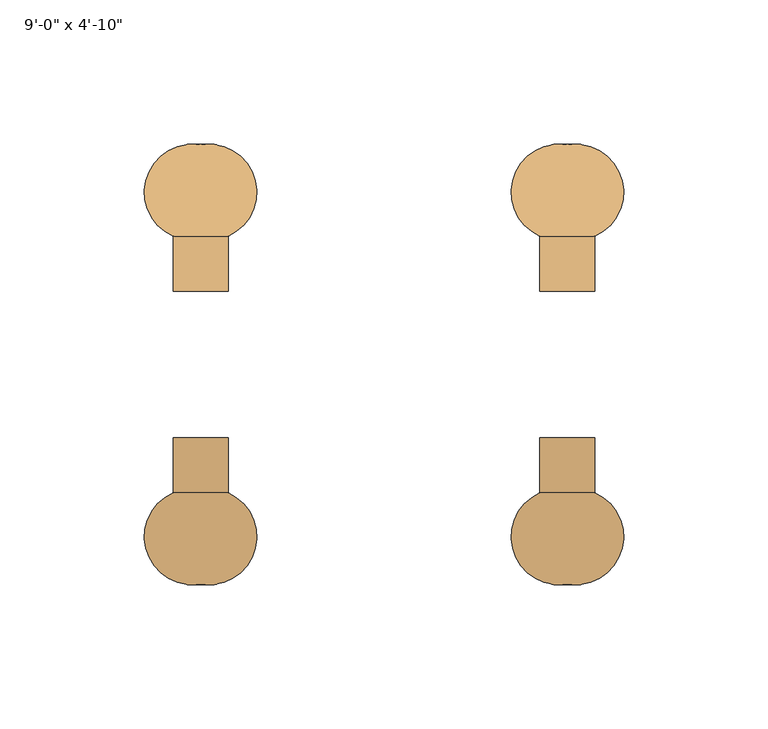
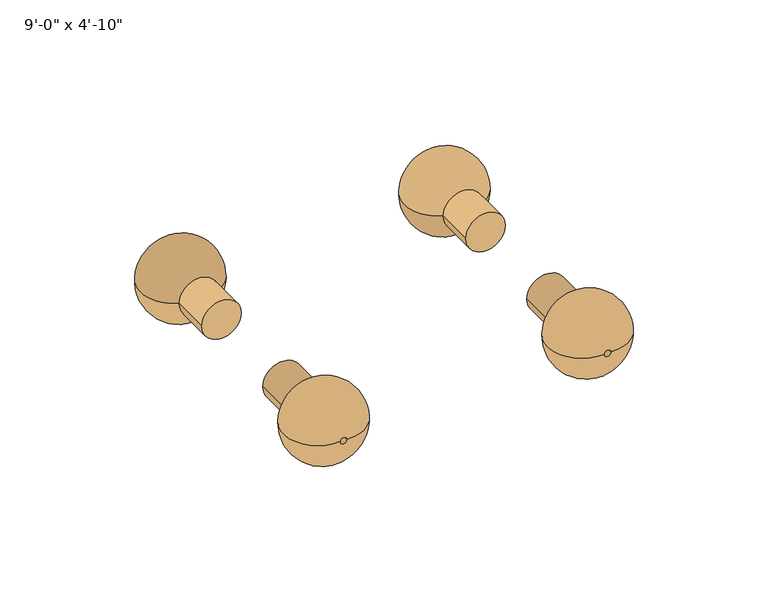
"""IFC4 building model written with IfcOpenShell, lengths in millimetres: door geometry."""

from ifc_helpers import new_model, si_unit, point, frame, frame_2d, origin, place, context, project, spatial, polyline, circle_curve, ellipse_curve, trimmed, segment, composite_curve, outline, extrude, source, transform, mapped, element, save
from ifc_brep_helpers import plane_surface, revolved_surface, advanced_brep


def door_96b5f492(model_context):
    return source(origin(), model_context, "Body", "SolidModel", [
        advanced_brep(
        [(-682.625, 88.9, 1016.0), (-682.625, 69.85, 1016.0), (-663.575, 69.85, 1016.0), (-663.575, 88.9, 1016.0), (-674.6875, 101.6, 1016.0), (-674.6875, 88.9, 1016.0), (-671.5125, 88.9, 1016.0), (-671.5125, 101.6, 1016.0)],
        [
            (0, 1),
            (1, 2, circle_curve(frame((-673.1, 69.85, 1016.0), z_axis=(0.0, -1.0, 0.0), x_axis=(1.0, 0.0, 0.0)), 9.525)),
            (2, 3),
            (3, 0, circle_curve(frame((-673.1, 88.9, 1016.0), z_axis=(0.0, 1.0, 0.0), x_axis=(1.0, 0.0, 0.0)), 9.525)),
            (4, 5),
            (5, 6, circle_curve(frame((-673.1, 88.9, 1016.0), z_axis=(0.0, -1.0, 0.0), x_axis=(1.0, 0.0, 0.0)), 1.5875)),
            (6, 7),
            (7, 4, circle_curve(frame((-673.1, 101.6, 1016.0), z_axis=(0.0, 1.0, 0.0), x_axis=(1.0, 0.0, 0.0)), 1.5875)),
            (1, 4, circle_curve(frame((-675.9791378, 85.055722, 1016.0), z_axis=(0.0, 0.0, -1.0), x_axis=(-1.0, 0.0, 0.0)), 16.5946215)),
            (7, 2, circle_curve(frame((-670.2208622, 85.055722, 1016.0), z_axis=(0.0, 0.0, -1.0), x_axis=(1.0, 0.0, 0.0)), 16.5946215)),
            (2, 1, circle_curve(frame((-673.1, 69.85, 1016.0), z_axis=(0.0, -1.0, 0.0), x_axis=(-1.0, 0.0, 0.0)), 9.525)),
            (0, 3, circle_curve(frame((-673.1, 88.9, 1016.0), z_axis=(0.0, 1.0, 0.0), x_axis=(-1.0, 0.0, 0.0)), 9.525)),
            (5, 6, circle_curve(frame((-673.1, 88.9, 1016.0), z_axis=(0.0, 1.0, 0.0), x_axis=(-1.0, 0.0, 0.0)), 1.5875)),
            (4, 7, circle_curve(frame((-673.1, 101.6, 1016.0), z_axis=(0.0, 1.0, 0.0), x_axis=(-1.0, 0.0, 0.0)), 1.5875)),
        ],
        [
            revolved_surface(polyline([(-663.575, 69.85, 1016.0), (-663.575, 88.9, 1016.0)]), (-673.1, 88.9, 1016.0), (0.0, -1.0, 0.0)),
            revolved_surface(polyline([(-671.5125, 88.9, 1016.0), (-671.5125, 101.6, 1016.0)]), (-673.1, 88.9, 1016.0), (0.0, -1.0, 0.0)),
            revolved_surface(trimmed(ellipse_curve(frame((-670.2208622, 85.055722, 1016.0), z_axis=(0.0, 0.0, -1.0), x_axis=(1.0, 0.0, 0.0)), 16.5946215, 16.5946215), [point((-671.5125, 101.6, 1016.0))], [point((-663.575, 69.85, 1016.0))], True, "CARTESIAN"), (-673.1, 88.9, 1016.0), (0.0, -1.0, 0.0)),
            revolved_surface(polyline([(-682.625, 69.85, 1016.0), (-682.625, 88.9, 1016.0)]), (-673.1, 88.9, 1016.0), (0.0, -1.0, 0.0)),
            plane_surface(frame((-673.1, 88.9, 1016.0), z_axis=(0.0, -1.0, 0.0), x_axis=(-1.0, 0.0, 0.0))),
            revolved_surface(polyline([(-674.6875, 88.9, 1016.0), (-674.6875, 101.6, 1016.0)]), (-673.1, 88.9, 1016.0), (0.0, -1.0, 0.0)),
            revolved_surface(trimmed(ellipse_curve(frame((-675.9791378, 85.055722, 1016.0), z_axis=(0.0, 0.0, 1.0), x_axis=(-1.0, 0.0, 0.0)), 16.5946215, 16.5946215), [point((-674.6875, 101.6, 1016.0))], [point((-682.625, 69.85, 1016.0))], True, "CARTESIAN"), (-673.1, 88.9, 1016.0), (0.0, -1.0, 0.0)),
        ],
        [
            (0, [[1, 2, 3, 4]]),
            (1, [[5, 6, 7, 8]]),
            (2, [[9, -8, 10, -2]]),
            (3, [[-3, 11, -1, 12]]),
            (4, [[-4, -12], [-6, 13]]),
            (5, [[-7, -13, -5, 14]]),
            (6, [[-10, -14, -9, -11]]),
        ],
    ),
        extrude(outline(composite_curve([segment(trimmed(circle_curve(frame_2d((1016.0, -673.1)), 9.525), [point((1016.0, -682.625))], [point((1016.0, -663.575))], False, "CARTESIAN"), True, "CONTINUOUS"), segment(trimmed(circle_curve(frame_2d((1016.0, -673.1)), 9.525), [point((1016.0, -663.575))], [point((1016.0, -682.625))], False, "CARTESIAN"), True, "CONTINUOUS")], self_intersect=False)), frame((0.0, 50.8, 0.0), z_axis=(0.0, 1.0, 0.0), x_axis=(0.0, 0.0, 1.0)), (0.0, 0.0, 1.0), 38.1),
        advanced_brep(
        [(-663.575, -38.1, 1016.0), (-663.575, -19.05, 1016.0), (-682.625, -19.05, 1016.0), (-682.625, -38.1, 1016.0), (-671.5125, -50.8, 1016.0), (-671.5125, -38.1, 1016.0), (-674.6875, -38.1, 1016.0), (-674.6875, -50.8, 1016.0)],
        [
            (0, 1),
            (1, 2, circle_curve(frame((-673.1, -19.05, 1016.0), z_axis=(0.0, 1.0, 0.0), x_axis=(-1.0, 0.0, 0.0)), 9.525)),
            (2, 3),
            (3, 0, circle_curve(frame((-673.1, -38.1, 1016.0), z_axis=(0.0, -1.0, 0.0), x_axis=(-1.0, 0.0, 0.0)), 9.525)),
            (4, 5),
            (5, 6, circle_curve(frame((-673.1, -38.1, 1016.0), z_axis=(0.0, 1.0, 0.0), x_axis=(-1.0, 0.0, 0.0)), 1.5875)),
            (6, 7),
            (7, 4, circle_curve(frame((-673.1, -50.8, 1016.0), z_axis=(0.0, -1.0, 0.0), x_axis=(-1.0, 0.0, 0.0)), 1.5875)),
            (1, 4, circle_curve(frame((-670.2208622, -34.255722, 1016.0), z_axis=(0.0, 0.0, -1.0), x_axis=(1.0, 0.0, 0.0)), 16.5946215)),
            (7, 2, circle_curve(frame((-675.9791378, -34.255722, 1016.0), z_axis=(0.0, 0.0, -1.0), x_axis=(-1.0, 0.0, 0.0)), 16.5946215)),
            (2, 1, circle_curve(frame((-673.1, -19.05, 1016.0), z_axis=(0.0, 1.0, 0.0), x_axis=(1.0, 0.0, 0.0)), 9.525)),
            (0, 3, circle_curve(frame((-673.1, -38.1, 1016.0), z_axis=(0.0, -1.0, 0.0), x_axis=(1.0, 0.0, 0.0)), 9.525)),
            (5, 6, circle_curve(frame((-673.1, -38.1, 1016.0), z_axis=(0.0, -1.0, 0.0), x_axis=(1.0, 0.0, 0.0)), 1.5875)),
            (4, 7, circle_curve(frame((-673.1, -50.8, 1016.0), z_axis=(0.0, -1.0, 0.0), x_axis=(1.0, 0.0, 0.0)), 1.5875)),
        ],
        [
            revolved_surface(polyline([(-682.625, -19.05, 1016.0), (-682.625, -38.1, 1016.0)]), (-673.1, -38.1, 1016.0), (0.0, 1.0, 0.0)),
            revolved_surface(polyline([(-674.6875, -38.1, 1016.0), (-674.6875, -50.8, 1016.0)]), (-673.1, -38.1, 1016.0), (0.0, 1.0, 0.0)),
            revolved_surface(trimmed(ellipse_curve(frame((-675.9791378, -34.255722, 1016.0), z_axis=(0.0, 0.0, -1.0), x_axis=(-1.0, 0.0, 0.0)), 16.5946215, 16.5946215), [point((-674.6875, -50.8, 1016.0))], [point((-682.625, -19.05, 1016.0))], True, "CARTESIAN"), (-673.1, -38.1, 1016.0), (0.0, 1.0, 0.0)),
            revolved_surface(polyline([(-663.575, -19.05, 1016.0), (-663.575, -38.1, 1016.0)]), (-673.1, -38.1, 1016.0), (0.0, 1.0, 0.0)),
            plane_surface(frame((-673.1, -38.1, 1016.0), z_axis=(0.0, 1.0, 0.0), x_axis=(1.0, 0.0, 0.0))),
            revolved_surface(polyline([(-671.5125, -38.1, 1016.0), (-671.5125, -50.8, 1016.0)]), (-673.1, -38.1, 1016.0), (0.0, 1.0, 0.0)),
            revolved_surface(trimmed(ellipse_curve(frame((-670.2208622, -34.255722, 1016.0), z_axis=(0.0, 0.0, 1.0), x_axis=(1.0, 0.0, 0.0)), 16.5946215, 16.5946215), [point((-671.5125, -50.8, 1016.0))], [point((-663.575, -19.05, 1016.0))], True, "CARTESIAN"), (-673.1, -38.1, 1016.0), (0.0, 1.0, 0.0)),
        ],
        [
            (0, [[1, 2, 3, 4]]),
            (1, [[5, 6, 7, 8]]),
            (2, [[9, -8, 10, -2]]),
            (3, [[-3, 11, -1, 12]]),
            (4, [[-4, -12], [-6, 13]]),
            (5, [[-7, -13, -5, 14]]),
            (6, [[-10, -14, -9, -11]]),
        ],
    ),
        extrude(outline(composite_curve([segment(trimmed(circle_curve(frame_2d((1016.0, -673.1)), 9.525), [point((1016.0, -682.625))], [point((1016.0, -663.575))], False, "CARTESIAN"), True, "CONTINUOUS"), segment(trimmed(circle_curve(frame_2d((1016.0, -673.1)), 9.525), [point((1016.0, -663.575))], [point((1016.0, -682.625))], False, "CARTESIAN"), True, "CONTINUOUS")], self_intersect=False)), frame((0.0, -38.1, 0.0), z_axis=(0.0, 1.0, 0.0), x_axis=(0.0, 0.0, 1.0)), (0.0, 0.0, 1.0), 38.1),
        advanced_brep(
        [(-536.575, 88.9, 1016.0), (-555.625, 88.9, 1016.0), (-555.625, 69.85, 1016.0), (-536.575, 69.85, 1016.0), (-544.5125, 101.6, 1016.0), (-547.6875, 101.6, 1016.0), (-547.6875, 88.9, 1016.0), (-544.5125, 88.9, 1016.0)],
        [
            (0, 1, circle_curve(frame((-546.1, 88.9, 1016.0), z_axis=(0.0, 1.0, 0.0), x_axis=(-1.0, 0.0, 0.0)), 9.525)),
            (1, 2),
            (2, 3, circle_curve(frame((-546.1, 69.85, 1016.0), z_axis=(0.0, -1.0, 0.0), x_axis=(-1.0, 0.0, 0.0)), 9.525)),
            (3, 0),
            (4, 5, circle_curve(frame((-546.1, 101.6, 1016.0), z_axis=(0.0, 1.0, 0.0), x_axis=(-1.0, 0.0, 0.0)), 1.5875)),
            (5, 6),
            (6, 7, circle_curve(frame((-546.1, 88.9, 1016.0), z_axis=(0.0, -1.0, 0.0), x_axis=(-1.0, 0.0, 0.0)), 1.5875)),
            (7, 4),
            (2, 5, circle_curve(frame((-548.9791378, 85.055722, 1016.0), z_axis=(0.0, 0.0, -1.0), x_axis=(-1.0, 0.0, 0.0)), 16.5946215)),
            (4, 3, circle_curve(frame((-543.2208622, 85.055722, 1016.0), z_axis=(0.0, 0.0, -1.0), x_axis=(1.0, 0.0, 0.0)), 16.5946215)),
            (1, 0, circle_curve(frame((-546.1, 88.9, 1016.0), z_axis=(0.0, 1.0, 0.0), x_axis=(1.0, 0.0, 0.0)), 9.525)),
            (3, 2, circle_curve(frame((-546.1, 69.85, 1016.0), z_axis=(0.0, -1.0, 0.0), x_axis=(1.0, 0.0, 0.0)), 9.525)),
            (6, 7, circle_curve(frame((-546.1, 88.9, 1016.0), z_axis=(0.0, 1.0, 0.0), x_axis=(1.0, 0.0, 0.0)), 1.5875)),
            (5, 4, circle_curve(frame((-546.1, 101.6, 1016.0), z_axis=(0.0, 1.0, 0.0), x_axis=(1.0, 0.0, 0.0)), 1.5875)),
        ],
        [
            revolved_surface(polyline([(-555.625, 69.85, 1016.0), (-555.625, 88.9, 1016.0)]), (-546.1, 88.9, 1016.0), (0.0, -1.0, 0.0)),
            revolved_surface(polyline([(-547.6875, 88.9, 1016.0), (-547.6875, 101.6, 1016.0)]), (-546.1, 88.9, 1016.0), (0.0, -1.0, 0.0)),
            revolved_surface(trimmed(ellipse_curve(frame((-548.9791378, 85.055722, 1016.0), z_axis=(0.0, 0.0, 1.0), x_axis=(-1.0, 0.0, 0.0)), 16.5946215, 16.5946215), [point((-547.6875, 101.6, 1016.0))], [point((-555.625, 69.85, 1016.0))], True, "CARTESIAN"), (-546.1, 88.9, 1016.0), (0.0, -1.0, 0.0)),
            revolved_surface(polyline([(-536.575, 69.85, 1016.0), (-536.575, 88.9, 1016.0)]), (-546.1, 88.9, 1016.0), (0.0, -1.0, 0.0)),
            plane_surface(frame((-546.1, 88.9, 1016.0), z_axis=(0.0, -1.0, 0.0), x_axis=(1.0, 0.0, 0.0))),
            revolved_surface(polyline([(-544.5125, 88.9, 1016.0), (-544.5125, 101.6, 1016.0)]), (-546.1, 88.9, 1016.0), (0.0, -1.0, 0.0)),
            revolved_surface(trimmed(ellipse_curve(frame((-543.2208622, 85.055722, 1016.0), z_axis=(0.0, 0.0, -1.0), x_axis=(1.0, 0.0, 0.0)), 16.5946215, 16.5946215), [point((-544.5125, 101.6, 1016.0))], [point((-536.575, 69.85, 1016.0))], True, "CARTESIAN"), (-546.1, 88.9, 1016.0), (0.0, -1.0, 0.0)),
        ],
        [
            (0, [[1, 2, 3, 4]]),
            (1, [[5, 6, 7, 8]]),
            (2, [[-3, 9, -5, 10]]),
            (3, [[11, -4, 12, -2]]),
            (4, [[-11, -1], [13, -7]]),
            (5, [[14, -8, -13, -6]]),
            (6, [[-12, -10, -14, -9]]),
        ],
    ),
        extrude(outline(composite_curve([segment(trimmed(circle_curve(frame_2d((1016.0, -546.1)), 9.525), [point((1016.0, -536.575))], [point((1016.0, -555.625))], False, "CARTESIAN"), True, "CONTINUOUS"), segment(trimmed(circle_curve(frame_2d((1016.0, -546.1)), 9.525), [point((1016.0, -555.625))], [point((1016.0, -536.575))], False, "CARTESIAN"), True, "CONTINUOUS")], self_intersect=False)), frame((0.0, 50.8, 0.0), z_axis=(0.0, 1.0, 0.0), x_axis=(0.0, 0.0, 1.0)), (0.0, 0.0, 1.0), 38.1),
        advanced_brep(
        [(-555.625, -38.1, 1016.0), (-536.575, -38.1, 1016.0), (-536.575, -19.05, 1016.0), (-555.625, -19.05, 1016.0), (-547.6875, -50.8, 1016.0), (-544.5125, -50.8, 1016.0), (-544.5125, -38.1, 1016.0), (-547.6875, -38.1, 1016.0)],
        [
            (0, 1, circle_curve(frame((-546.1, -38.1, 1016.0), z_axis=(0.0, -1.0, 0.0), x_axis=(1.0, 0.0, 0.0)), 9.525)),
            (1, 2),
            (2, 3, circle_curve(frame((-546.1, -19.05, 1016.0), z_axis=(0.0, 1.0, 0.0), x_axis=(1.0, 0.0, 0.0)), 9.525)),
            (3, 0),
            (4, 5, circle_curve(frame((-546.1, -50.8, 1016.0), z_axis=(0.0, -1.0, 0.0), x_axis=(1.0, 0.0, 0.0)), 1.5875)),
            (5, 6),
            (6, 7, circle_curve(frame((-546.1, -38.1, 1016.0), z_axis=(0.0, 1.0, 0.0), x_axis=(1.0, 0.0, 0.0)), 1.5875)),
            (7, 4),
            (2, 5, circle_curve(frame((-543.2208622, -34.255722, 1016.0), z_axis=(0.0, 0.0, -1.0), x_axis=(1.0, 0.0, 0.0)), 16.5946215)),
            (4, 3, circle_curve(frame((-548.9791378, -34.255722, 1016.0), z_axis=(0.0, 0.0, -1.0), x_axis=(-1.0, 0.0, 0.0)), 16.5946215)),
            (1, 0, circle_curve(frame((-546.1, -38.1, 1016.0), z_axis=(0.0, -1.0, 0.0), x_axis=(-1.0, 0.0, 0.0)), 9.525)),
            (3, 2, circle_curve(frame((-546.1, -19.05, 1016.0), z_axis=(0.0, 1.0, 0.0), x_axis=(-1.0, 0.0, 0.0)), 9.525)),
            (6, 7, circle_curve(frame((-546.1, -38.1, 1016.0), z_axis=(0.0, -1.0, 0.0), x_axis=(-1.0, 0.0, 0.0)), 1.5875)),
            (5, 4, circle_curve(frame((-546.1, -50.8, 1016.0), z_axis=(0.0, -1.0, 0.0), x_axis=(-1.0, 0.0, 0.0)), 1.5875)),
        ],
        [
            revolved_surface(polyline([(-536.575, -19.05, 1016.0), (-536.575, -38.1, 1016.0)]), (-546.1, -38.1, 1016.0), (0.0, 1.0, 0.0)),
            revolved_surface(polyline([(-544.5125, -38.1, 1016.0), (-544.5125, -50.8, 1016.0)]), (-546.1, -38.1, 1016.0), (0.0, 1.0, 0.0)),
            revolved_surface(trimmed(ellipse_curve(frame((-543.2208622, -34.255722, 1016.0), z_axis=(0.0, 0.0, 1.0), x_axis=(1.0, 0.0, 0.0)), 16.5946215, 16.5946215), [point((-544.5125, -50.8, 1016.0))], [point((-536.575, -19.05, 1016.0))], True, "CARTESIAN"), (-546.1, -38.1, 1016.0), (0.0, 1.0, 0.0)),
            revolved_surface(polyline([(-555.625, -19.05, 1016.0), (-555.625, -38.1, 1016.0)]), (-546.1, -38.1, 1016.0), (0.0, 1.0, 0.0)),
            plane_surface(frame((-546.1, -38.1, 1016.0), z_axis=(0.0, 1.0, 0.0), x_axis=(-1.0, 0.0, 0.0))),
            revolved_surface(polyline([(-547.6875, -38.1, 1016.0), (-547.6875, -50.8, 1016.0)]), (-546.1, -38.1, 1016.0), (0.0, 1.0, 0.0)),
            revolved_surface(trimmed(ellipse_curve(frame((-548.9791378, -34.255722, 1016.0), z_axis=(0.0, 0.0, -1.0), x_axis=(-1.0, 0.0, 0.0)), 16.5946215, 16.5946215), [point((-547.6875, -50.8, 1016.0))], [point((-555.625, -19.05, 1016.0))], True, "CARTESIAN"), (-546.1, -38.1, 1016.0), (0.0, 1.0, 0.0)),
        ],
        [
            (0, [[1, 2, 3, 4]]),
            (1, [[5, 6, 7, 8]]),
            (2, [[-3, 9, -5, 10]]),
            (3, [[11, -4, 12, -2]]),
            (4, [[-11, -1], [13, -7]]),
            (5, [[14, -8, -13, -6]]),
            (6, [[-12, -10, -14, -9]]),
        ],
    ),
        extrude(outline(composite_curve([segment(trimmed(circle_curve(frame_2d((1016.0, -546.1)), 9.525), [point((1016.0, -536.575))], [point((1016.0, -555.625))], False, "CARTESIAN"), True, "CONTINUOUS"), segment(trimmed(circle_curve(frame_2d((1016.0, -546.1)), 9.525), [point((1016.0, -555.625))], [point((1016.0, -536.575))], False, "CARTESIAN"), True, "CONTINUOUS")], self_intersect=False)), frame((0.0, -38.1, 0.0), z_axis=(0.0, 1.0, 0.0), x_axis=(0.0, 0.0, 1.0)), (0.0, 0.0, 1.0), 38.1),
    ])


if __name__ == "__main__":
    model = new_model("IFC4")
    model_context = context("Model", 3, world=origin())
    ifc_project = project(units=[si_unit("LENGTHUNIT", "METRE", prefix="MILLI")], contexts=[model_context])
    site = spatial("IfcSite", under=ifc_project)
    building = spatial("IfcBuilding", under=site)
    placement = place(None, origin())
    door_shape = door_96b5f492(model_context)
    element("IfcDoor", 1, ObjectType="Planitar -Double Door_Swapper : 9'-0\" x 4'-10\"", at=placement, inside=building, context=model_context, shape_type="MappedRepresentation", body=[
        mapped(door_shape, transform((0.0, 0.0, 0.0), x_axis=(1.0, 0.0, 0.0), y_axis=(0.0, 1.0, 0.0), z_axis=(0.0, 0.0, 1.0))),
    ])
    save(model, "model.ifc")
